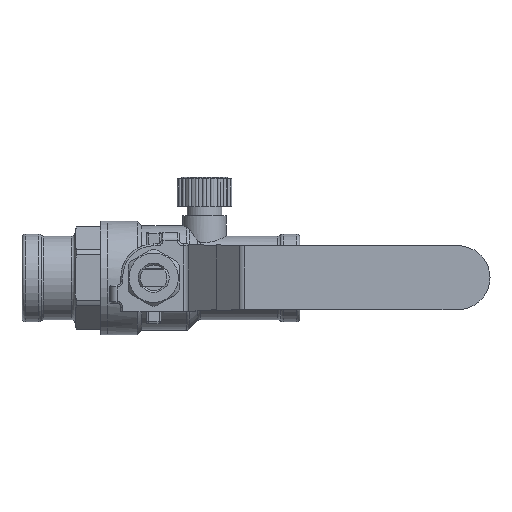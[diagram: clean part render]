
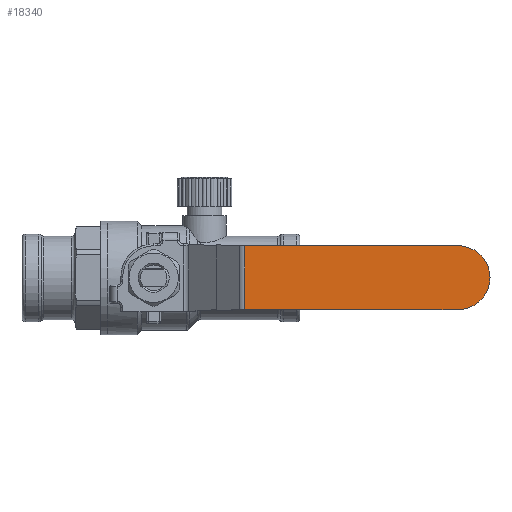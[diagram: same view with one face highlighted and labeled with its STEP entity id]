
A CAD part, top view. The second image highlights one B-rep face of the part: STEP entity #18340.
In plain terms, the highlighted planar face has unit normal (0, 0, 1).
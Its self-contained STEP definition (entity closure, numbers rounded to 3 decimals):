
#16858 = PLANE('',#16859);
#16859 = AXIS2_PLACEMENT_3D('',#16860,#16861,#16862);
#16860 = CARTESIAN_POINT('',(-161.676,-0.345,
    24.882));
#16861 = DIRECTION('',(0.,1.,0.));
#16862 = DIRECTION('',(-1.,0.,0.));
#16917 = PLANE('',#16918);
#16918 = AXIS2_PLACEMENT_3D('',#16919,#16920,#16921);
#16919 = CARTESIAN_POINT('',(-164.005,0.345,
    24.882));
#16920 = DIRECTION('',(0.,-1.,0.));
#16921 = DIRECTION('',(1.,0.,0.));
#16977 = CYLINDRICAL_SURFACE('',#16978,0.345);
#16978 = AXIS2_PLACEMENT_3D('',#16979,#16980,#16981);
#16979 = CARTESIAN_POINT('',(-161.676,0.,
    24.882));
#16980 = DIRECTION('',(0.,0.,1.));
#16981 = DIRECTION('',(0.,-1.,0.));
#17498 = VERTEX_POINT('',#17499);
#17499 = CARTESIAN_POINT('',(-163.972,-0.345,
    25.532));
#17507 = CYLINDRICAL_SURFACE('',#17508,0.079);
#17508 = AXIS2_PLACEMENT_3D('',#17509,#17510,#17511);
#17509 = CARTESIAN_POINT('',(-163.972,0.,
    25.454));
#17510 = DIRECTION('',(0.,-1.,0.));
#17511 = DIRECTION('',(-0.383,0.,0.924
    ));
#17526 = EDGE_CURVE('',#17498,#17527,#17529,.T.);
#17527 = VERTEX_POINT('',#17528);
#17528 = CARTESIAN_POINT('',(-163.972,0.345,
    25.532));
#17529 = SURFACE_CURVE('',#17530,(#17534,#17541),.PCURVE_S1.);
#17530 = LINE('',#17531,#17532);
#17531 = CARTESIAN_POINT('',(-163.972,0.,
    25.532));
#17532 = VECTOR('',#17533,1.);
#17533 = DIRECTION('',(0.,1.,0.));
#17534 = PCURVE('',#17507,#17535);
#17535 = DEFINITIONAL_REPRESENTATION('',(#17536),#17540);
#17536 = LINE('',#17537,#17538);
#17537 = CARTESIAN_POINT('',(-0.393,0.));
#17538 = VECTOR('',#17539,1.);
#17539 = DIRECTION('',(0.,-1.));
#17540 = ( GEOMETRIC_REPRESENTATION_CONTEXT(2) 
PARAMETRIC_REPRESENTATION_CONTEXT() REPRESENTATION_CONTEXT('2D SPACE',''
  ) );
#17541 = PCURVE('',#17542,#17547);
#17542 = PLANE('',#17543);
#17543 = AXIS2_PLACEMENT_3D('',#17544,#17545,#17546);
#17544 = CARTESIAN_POINT('',(-161.329,0.,
    25.532));
#17545 = DIRECTION('',(0.,0.,1.));
#17546 = DIRECTION('',(-1.,0.,0.));
#17547 = DEFINITIONAL_REPRESENTATION('',(#17548),#17552);
#17548 = LINE('',#17549,#17550);
#17549 = CARTESIAN_POINT('',(2.643,0.));
#17550 = VECTOR('',#17551,1.);
#17551 = DIRECTION('',(0.,-1.));
#17552 = ( GEOMETRIC_REPRESENTATION_CONTEXT(2) 
PARAMETRIC_REPRESENTATION_CONTEXT() REPRESENTATION_CONTEXT('2D SPACE',''
  ) );
#17807 = EDGE_CURVE('',#17808,#17527,#17810,.T.);
#17808 = VERTEX_POINT('',#17809);
#17809 = CARTESIAN_POINT('',(-161.676,0.345,
    25.532));
#17810 = SURFACE_CURVE('',#17811,(#17815,#17822),.PCURVE_S1.);
#17811 = LINE('',#17812,#17813);
#17812 = CARTESIAN_POINT('',(-162.667,0.345,
    25.532));
#17813 = VECTOR('',#17814,1.);
#17814 = DIRECTION('',(-1.,0.,0.));
#17815 = PCURVE('',#16917,#17816);
#17816 = DEFINITIONAL_REPRESENTATION('',(#17817),#17821);
#17817 = LINE('',#17818,#17819);
#17818 = CARTESIAN_POINT('',(1.338,0.65));
#17819 = VECTOR('',#17820,1.);
#17820 = DIRECTION('',(-1.,0.));
#17821 = ( GEOMETRIC_REPRESENTATION_CONTEXT(2) 
PARAMETRIC_REPRESENTATION_CONTEXT() REPRESENTATION_CONTEXT('2D SPACE',''
  ) );
#17822 = PCURVE('',#17542,#17823);
#17823 = DEFINITIONAL_REPRESENTATION('',(#17824),#17828);
#17824 = LINE('',#17825,#17826);
#17825 = CARTESIAN_POINT('',(1.338,-0.345));
#17826 = VECTOR('',#17827,1.);
#17827 = DIRECTION('',(1.,0.));
#17828 = ( GEOMETRIC_REPRESENTATION_CONTEXT(2) 
PARAMETRIC_REPRESENTATION_CONTEXT() REPRESENTATION_CONTEXT('2D SPACE',''
  ) );
#18270 = VERTEX_POINT('',#18271);
#18271 = CARTESIAN_POINT('',(-161.676,-0.345,
    25.532));
#18292 = EDGE_CURVE('',#17498,#18270,#18293,.T.);
#18293 = SURFACE_CURVE('',#18294,(#18298,#18305),.PCURVE_S1.);
#18294 = LINE('',#18295,#18296);
#18295 = CARTESIAN_POINT('',(-161.502,-0.345,
    25.532));
#18296 = VECTOR('',#18297,1.);
#18297 = DIRECTION('',(1.,0.,0.));
#18298 = PCURVE('',#16858,#18299);
#18299 = DEFINITIONAL_REPRESENTATION('',(#18300),#18304);
#18300 = LINE('',#18301,#18302);
#18301 = CARTESIAN_POINT('',(-0.173,0.65));
#18302 = VECTOR('',#18303,1.);
#18303 = DIRECTION('',(-1.,0.));
#18304 = ( GEOMETRIC_REPRESENTATION_CONTEXT(2) 
PARAMETRIC_REPRESENTATION_CONTEXT() REPRESENTATION_CONTEXT('2D SPACE',''
  ) );
#18305 = PCURVE('',#17542,#18306);
#18306 = DEFINITIONAL_REPRESENTATION('',(#18307),#18311);
#18307 = LINE('',#18308,#18309);
#18308 = CARTESIAN_POINT('',(0.173,0.345));
#18309 = VECTOR('',#18310,1.);
#18310 = DIRECTION('',(-1.,0.));
#18311 = ( GEOMETRIC_REPRESENTATION_CONTEXT(2) 
PARAMETRIC_REPRESENTATION_CONTEXT() REPRESENTATION_CONTEXT('2D SPACE',''
  ) );
#18318 = EDGE_CURVE('',#18270,#17808,#18319,.T.);
#18319 = SURFACE_CURVE('',#18320,(#18325,#18332),.PCURVE_S1.);
#18320 = CIRCLE('',#18321,0.345);
#18321 = AXIS2_PLACEMENT_3D('',#18322,#18323,#18324);
#18322 = CARTESIAN_POINT('',(-161.676,0.,
    25.532));
#18323 = DIRECTION('',(0.,0.,1.));
#18324 = DIRECTION('',(0.,-1.,0.));
#18325 = PCURVE('',#16977,#18326);
#18326 = DEFINITIONAL_REPRESENTATION('',(#18327),#18331);
#18327 = LINE('',#18328,#18329);
#18328 = CARTESIAN_POINT('',(0.,0.65));
#18329 = VECTOR('',#18330,1.);
#18330 = DIRECTION('',(1.,0.));
#18331 = ( GEOMETRIC_REPRESENTATION_CONTEXT(2) 
PARAMETRIC_REPRESENTATION_CONTEXT() REPRESENTATION_CONTEXT('2D SPACE',''
  ) );
#18332 = PCURVE('',#17542,#18333);
#18333 = DEFINITIONAL_REPRESENTATION('',(#18334),#18338);
#18334 = CIRCLE('',#18335,0.345);
#18335 = AXIS2_PLACEMENT_2D('',#18336,#18337);
#18336 = CARTESIAN_POINT('',(0.347,0.));
#18337 = DIRECTION('',(0.,1.));
#18338 = ( GEOMETRIC_REPRESENTATION_CONTEXT(2) 
PARAMETRIC_REPRESENTATION_CONTEXT() REPRESENTATION_CONTEXT('2D SPACE',''
  ) );
#18340 = ADVANCED_FACE('',(#18341),#17542,.T.);
#18341 = FACE_BOUND('',#18342,.T.);
#18342 = EDGE_LOOP('',(#18343,#18344,#18345,#18346));
#18343 = ORIENTED_EDGE('',*,*,#17526,.F.);
#18344 = ORIENTED_EDGE('',*,*,#18292,.T.);
#18345 = ORIENTED_EDGE('',*,*,#18318,.T.);
#18346 = ORIENTED_EDGE('',*,*,#17807,.T.);
